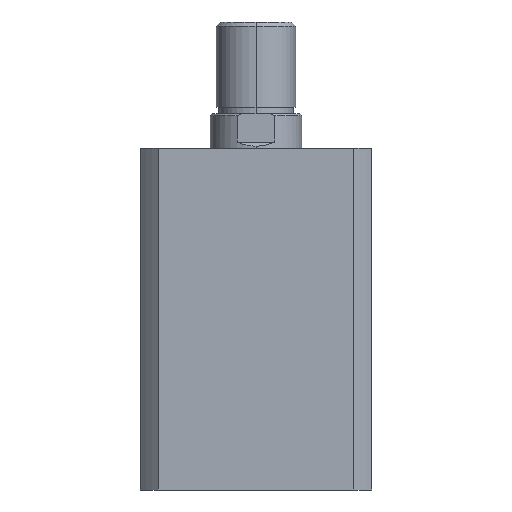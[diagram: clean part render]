
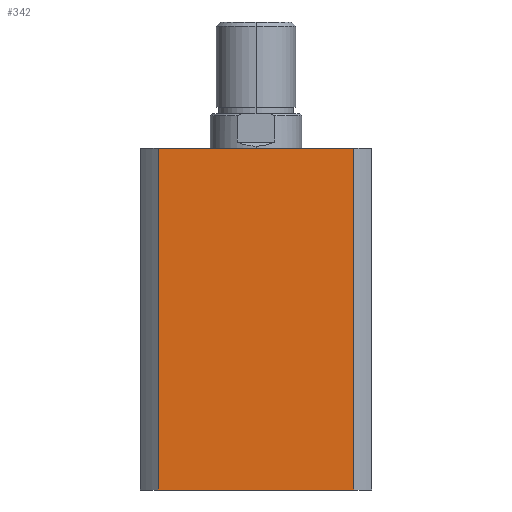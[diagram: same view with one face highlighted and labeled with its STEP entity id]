
A CAD part, left-side view. The second image highlights one B-rep face of the part: STEP entity #342.
In plain terms, the highlighted planar face has unit normal (-1, 0, 0).
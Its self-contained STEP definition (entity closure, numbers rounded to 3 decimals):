
#1 = CARTESIAN_POINT ( 'NONE',  ( -57., -47.971, 0. ) ) ;
#112 = CARTESIAN_POINT ( 'NONE',  ( -57., 47.971, 168. ) ) ;
#342 = ADVANCED_FACE ( 'NONE', ( #5155 ), #2466, .F. ) ;
#480 = AXIS2_PLACEMENT_3D ( 'NONE', #2470, #2463, #2461 ) ;
#659 = EDGE_CURVE ( 'NONE', #4906, #3622, #2174, .T. ) ;
#661 = EDGE_CURVE ( 'NONE', #3710, #3787, #2177, .T. ) ;
#662 = EDGE_CURVE ( 'NONE', #4906, #3710, #2175, .T. ) ;
#1107 = DIRECTION ( 'NONE',  ( 0., -1., 0. ) ) ;
#1108 = DIRECTION ( 'NONE',  ( 0., 0., -1. ) ) ;
#1110 = CARTESIAN_POINT ( 'NONE',  ( -57., -47.971, 168. ) ) ;
#1118 = CARTESIAN_POINT ( 'NONE',  ( -57., 0., 168. ) ) ;
#1120 = CARTESIAN_POINT ( 'NONE',  ( -57., 47.971, 168. ) ) ;
#1127 = DIRECTION ( 'NONE',  ( 0., 0., -1. ) ) ;
#1168 = CARTESIAN_POINT ( 'NONE',  ( -57., -47.971, 168. ) ) ;
#2049 = LINE ( 'NONE', #4115, #2059 ) ;
#2059 = VECTOR ( 'NONE', #4110, 1000. ) ;
#2174 = LINE ( 'NONE', #1120, #2176 ) ;
#2175 = LINE ( 'NONE', #1118, #2182 ) ;
#2176 = VECTOR ( 'NONE', #1127, 1000. ) ;
#2177 = LINE ( 'NONE', #1110, #2180 ) ;
#2180 = VECTOR ( 'NONE', #1108, 1000. ) ;
#2182 = VECTOR ( 'NONE', #1107, 1000. ) ;
#2461 = DIRECTION ( 'NONE',  ( 0., 0., -1. ) ) ;
#2463 = DIRECTION ( 'NONE',  ( 1., 0., 0. ) ) ;
#2466 = PLANE ( 'NONE',  #480 ) ;
#2470 = CARTESIAN_POINT ( 'NONE',  ( -57., 0., 168. ) ) ;
#3153 = EDGE_CURVE ( 'NONE', #3622, #3787, #2049, .T. ) ;
#3322 = CARTESIAN_POINT ( 'NONE',  ( -57., 47.971, 0. ) ) ;
#3622 = VERTEX_POINT ( 'NONE', #3322 ) ;
#3710 = VERTEX_POINT ( 'NONE', #1168 ) ;
#3787 = VERTEX_POINT ( 'NONE', #1 ) ;
#4110 = DIRECTION ( 'NONE',  ( 0., -1., 0. ) ) ;
#4115 = CARTESIAN_POINT ( 'NONE',  ( -57., 0., 0. ) ) ;
#4752 = EDGE_LOOP ( 'NONE', ( #4926, #4924, #4875, #4874 ) ) ;
#4874 = ORIENTED_EDGE ( 'NONE', *, *, #659, .T. ) ;
#4875 = ORIENTED_EDGE ( 'NONE', *, *, #662, .F. ) ;
#4906 = VERTEX_POINT ( 'NONE', #112 ) ;
#4924 = ORIENTED_EDGE ( 'NONE', *, *, #661, .F. ) ;
#4926 = ORIENTED_EDGE ( 'NONE', *, *, #3153, .T. ) ;
#5155 = FACE_OUTER_BOUND ( 'NONE', #4752, .T. ) ;
